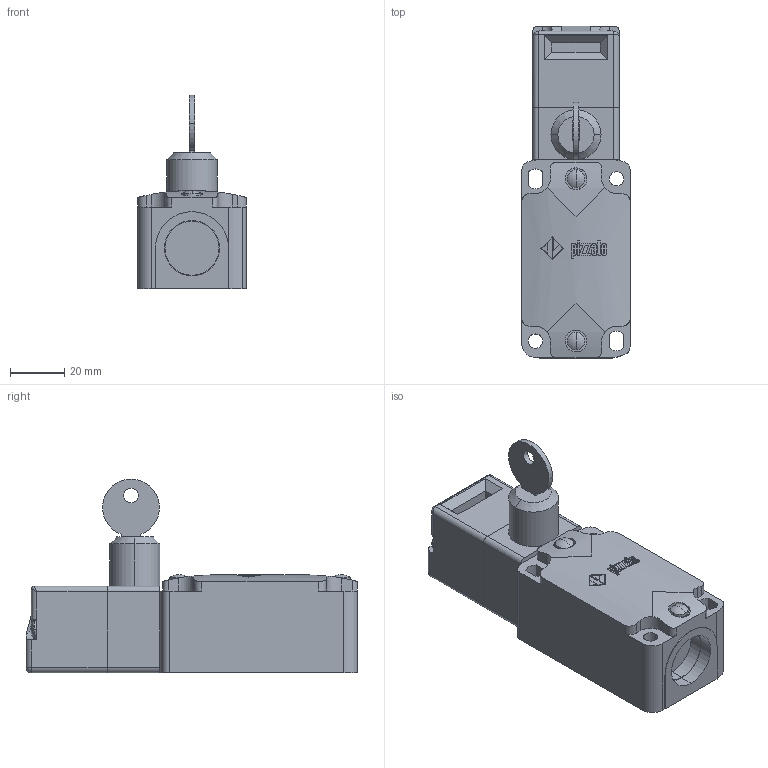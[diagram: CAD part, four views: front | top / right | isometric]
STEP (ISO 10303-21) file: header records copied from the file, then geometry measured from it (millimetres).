
FILE_DESCRIPTION (( 'STEP AP214' ), '1' );
FILE_NAME ('ZF_STEP_FD_x99_A10.step', '2014-04-10T09:03:06', ( 'utente' ), ( 'Microsoft' ), 'SwSTEP 2.0', 'SolidWorks 2013', '' );
FILE_SCHEMA (( 'AUTOMOTIVE_DESIGN' ));
Length unit declared in the file: millimetre
Products named in the file (6): ZF_STEP_FD_x99_A10; ZF_STEP_VF_T99_A10; Pizzato_Chiave_Serratura_Chiave; Pizzato_Supporto_T93_T96_TS96; Pizzato_Modulo_T99; Pizzato_Custodia_FD
Assembly tree (5 placements, depth 3):
  ZF_STEP_FD_x99_A10
    Pizzato_Custodia_FD
    ZF_STEP_VF_T99_A10
      Pizzato_Modulo_T99
      Pizzato_Supporto_T93_T96_TS96
      Pizzato_Chiave_Serratura_Chiave
Bounding box: 40 x 122.7 x 71.55 mm (x, y, z)
Volume: 144988 mm3; surface area: 32472.9 mm2
Topology: 4 solids, 4 shells, 488 faces, 1287 edges, 845 vertices
Faces by surface type: plane 286, bspline 99, cylinder 87, sphere 10, torus 4, cone 2
Entity records: 20416 total; most frequent: CARTESIAN_POINT 8737, ORIENTED_EDGE 2566, DIRECTION 2033, EDGE_CURVE 1283, VERTEX_POINT 845, LINE 801, VECTOR 801, AXIS2_PLACEMENT_3D 616
